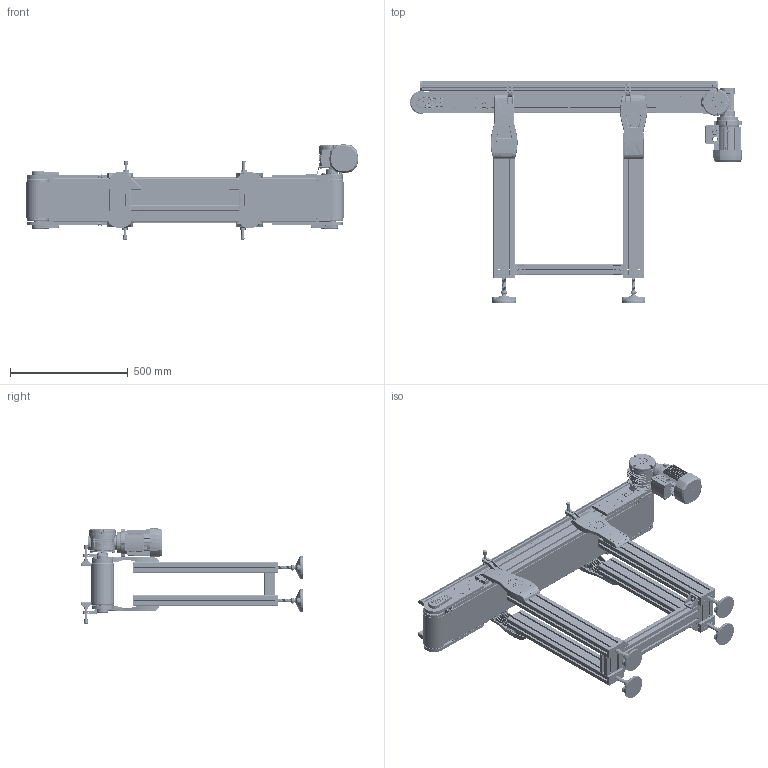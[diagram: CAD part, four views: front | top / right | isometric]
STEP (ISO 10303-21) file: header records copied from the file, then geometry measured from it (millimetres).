
FILE_DESCRIPTION (( 'STEP AP203' ), '1' );
FILE_NAME ('NASTRO_RETTILINEO_TAPPETO.step', '2026-05-04T12:18:48', ( 'Utente Windows' ), ( '' ), 'SwSTEP 2.0', 'SolidWorks 2024', '' );
FILE_SCHEMA (( 'CONFIG_CONTROL_DESIGN' ));
Length unit declared in the file: millimetre
Products named in the file (72): 084.301.000 VITI ALUSIC1_084.301.003; 084.302.000 DADI ALUSIC 13x13-1_084.302.004; 2010.000.074; VITI TSEI UNI 5933_M5x12 UNI 5933; BLOCCO_RINVIO_95_STANDARD_CON TENDINASTRO E CARTER; RULLO_95_Default<A macchina>; RONDELLE UNI 6592_8.4x17 UNI 6592; VITE_DADO_M5X12; 084.812.002; 084.803.003; 2010.000.072; BLOCCO_TRAINO_95_STANDARD_49_DX_CON TENDINASTRO E SENZA CARTER; NASTRO_RETTILINEO_TAPPETO; VITI TSEI UNI 5933_M4x12 UNI 5933; FLANGIA_GAMBA_95_CON GIUNTI; 084.802.060_Default<A macchina>; 084.402.005; 084.802.034_084.802.034; CHIAVETTE_A 8x7x70 UNI 6604-69; 084.711.006_PER CAVA 8 PERNO ALTO 1; TAPPETO_STANDARD; GAMBE_D95_Default<A macchina>; LAMIERA_STANDARD; 084.303.001; BLOCCO_PERNO_95_49; BLOCCO_BRACCIO_CH05P_CH05P; SPONDA_Default<A macchina>; VITI TE UNI 5739_M8x12 UNI 5739; 2010.000.073; 084.711.005; VITI TCEI UNI 5931_M6x12 UNI 5931; 084.802.068; 2010.000.072_L_Default<A macchina>; 084.302.000 DADI ALUSIC 13x13-1_084.302.009; 084.810.003; 084.201.019; 084.808.003_084.808.003; CHIAVETTE_A 8x7x20 UNI 6604-69; 25UNI7435; VITI TCEI UNI 5931_M4x25 UNI 5931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
Assembly tree (198 placements, depth 4):
  NASTRO_RETTILINEO_TAPPETO
    TAPPETO_STANDARD
    TELAIO_95_STANDARD_Default<A macchina>
    LAMIERA_STANDARD
    RULLO_95_Default<A macchina>  x2
    BLOCCO_PERNO_95_49
      084.812.002
      084.810.003
      CHIAVETTE_A 8x7x70 UNI 6604-69
      CHIAVETTE_A 8x7x20 UNI 6604-69
      RONDELLE FASCIA LARGA UNI 6593_8.4x32 UNI 6593
      VITI TE UNI 5739_M8x16 UNI 5739
      25UNI7435
      30UNI7435
    BLOCCO_TRAINO_95_STANDARD_49_DX_CON TENDINASTRO E SENZA CARTER
      084.808.003_084.808.003
      084.302.060  x2
      084.802.034_084.802.034
      084.301.000 VITI ALUSIC_084.301.003  x6
      084.802.067_Default<A macchina>
      VITI TCEI UNI 5931_M4x25 UNI 5931  x2
      BLOCCO_BRACCIO_CH05P_CH05P
        084.808.013
        084.802.062
        084.802.060_Default<A macchina>
        VITI TE UNI 5739_M8x12 UNI 5739  x4
        VITI TE UNI 5739_M6x12 UNI 5739  x4
        084.803.017
        VITI TCEI UNI 5931_M6x12 UNI 5931  x4
    BLOCCO_PERNO_95_RINVIO  x3
      084.812.003
      084.810.003
      30UNI7435
    BLOCCO_TRAINO_95_STANDARD_CON TENDINASTRO E CARTER
      084.808.002_084.808.002
      084.302.060  x2
      084.802.019_084.802.019
      084.301.000 VITI ALUSIC_084.301.003  x6
      VITI TCEI UNI 5931_M4x25 UNI 5931  x2
      084.802.071
      084.802.068
      VITI TSEI UNI 5933_M4x12 UNI 5933  x2
    BLOCCO_RINVIO_95_STANDARD_CON TENDINASTRO E CARTER  x2
      084.808.002_084.808.002
      084.803.003
      084.302.060
      084.802.019_084.802.019
      VITI TSEI UNI 5933_M4x12 UNI 5933
      084.302.000 DADI ALUSIC 13x13-1_084.302.004
      084.301.000 VITI ALUSIC_084.301.003
      084.802.071
    SPONDA_Default<A macchina>  x2
    084.711.006_PER CAVA 8 PERNO ALTO 1  x4
      084.711.006_L1
      084.711.006_L2
      084.711.007
      084.711.005
      084.711.010
      DADI ESAGONALI NORMALI UNI 5588_M6 UNI 5588
    084.712.002  x4
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Bounding box: 1409.8 x 940.5 x 404.63 mm (x, y, z)
Volume: 15037922.4 mm3; surface area: 9014862.7 mm2
Topology: 339 solids, 342 shells, 17882 faces, 46254 edges, 29288 vertices
Faces by surface type: plane 7349, cylinder 5188, bspline 2239, cone 1684, torus 1246, sphere 176
Entity records: 303389 total; most frequent: CARTESIAN_POINT 121820, ORIENTED_EDGE 37780, DIRECTION 33149, EDGE_CURVE 18890, VERTEX_POINT 12049, AXIS2_PLACEMENT_3D 11713, LINE 9723, VECTOR 9723
